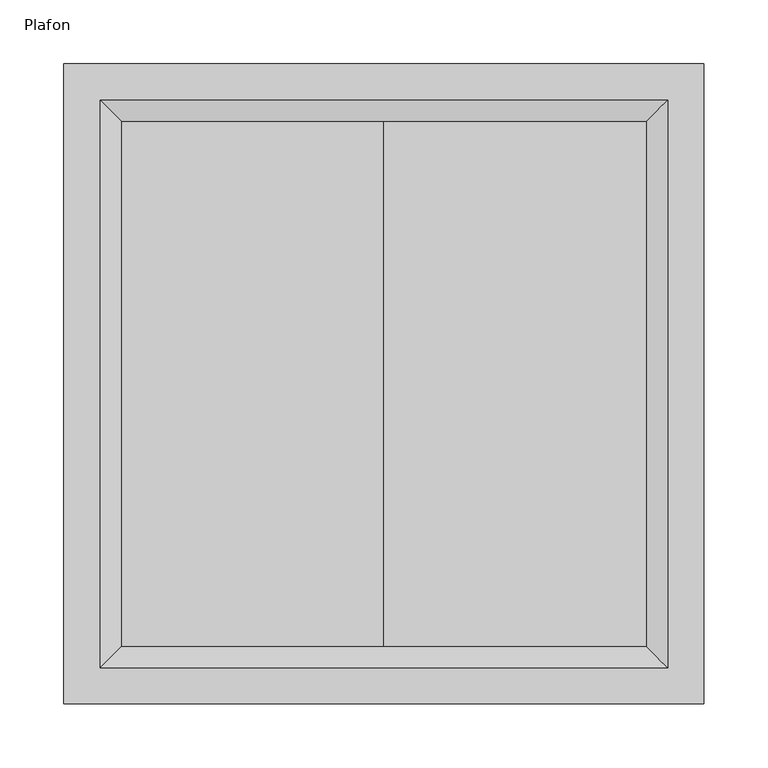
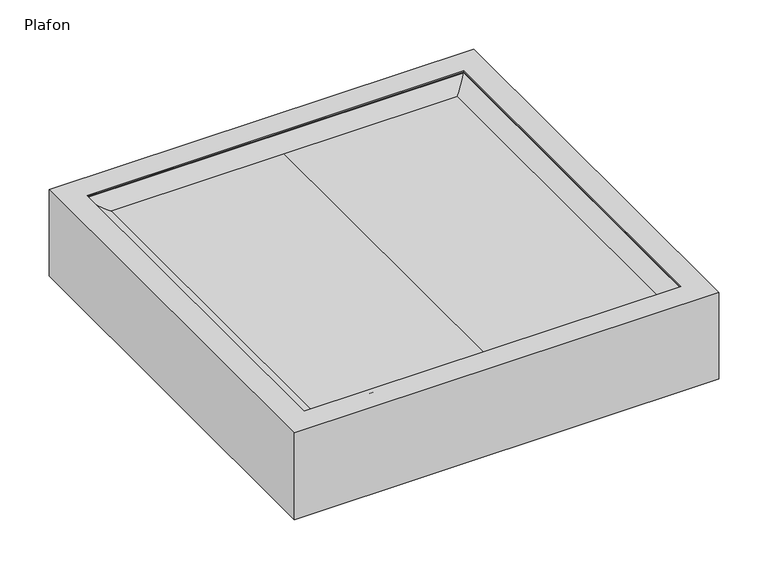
"""IFC4 building model written with IfcOpenShell, lengths in millimetres: light fixture geometry, Plafon : Lighting_Ceiling-Mounted_LumenWerx_Primo-Surface."""

import ifcopenshell
import ifcopenshell.guid

model = None  # the IFC model being written
_history = None  # IfcOwnerHistory: only IFC2X3 demands one
_inside = {}  # id of a spatial element -> (the spatial element, [elements in it])
_under = {}  # id of a project, library or spatial element -> (it, [spatial elements below it])
_declared = {}  # id of a project -> (the project, [libraries it declares])
_typed = {}  # id of a type object -> (the type object, [elements of that type])
_made_of = {}  # id of a material, layer set ... -> (it, [elements and type objects made of it])


def new_model(schema):
    """Start an empty IFC model of exactly this schema.

    Asked for "IFC4X3", IfcOpenShell would pick the latest addendum, in which some entities
    have other attributes; the version numbers below select the first issue.
    IFC2X3 requires an IfcOwnerHistory on every rooted entity: one is made here for all.
    """
    global model, _history
    if schema == "IFC4X3":
        model = ifcopenshell.file(schema_version=(4, 3, 0, 0))
    else:
        model = ifcopenshell.file(schema=schema)
    _inside.clear()
    _under.clear()
    _declared.clear()
    _typed.clear()
    _made_of.clear()
    _history = None
    if model.schema == "IFC2X3":
        org = make("IfcOrganization", Name="unknown")
        user = make(
            "IfcPersonAndOrganization",
            ThePerson=make("IfcPerson", FamilyName="unknown"),
            TheOrganization=org,
        )
        app = make(
            "IfcApplication",
            ApplicationDeveloper=org,
            Version="unknown",
            ApplicationFullName="unknown",
            ApplicationIdentifier="unknown",
        )
        _history = make(
            "IfcOwnerHistory",
            OwningUser=user,
            OwningApplication=app,
            ChangeAction="ADDED",
            CreationDate=0,
        )
    return model


def make(cls, **values):
    """One entity of the class cls with the attributes given. An attribute that is None is left unset."""
    return model.create_entity(
        cls, **{name: value for name, value in values.items() if value is not None}
    )


def rooted(cls, **values):
    """An entity with a GlobalId (a new one), such as an element, a storey or a relation."""
    return make(cls, GlobalId=ifcopenshell.guid.new(), OwnerHistory=_history, **values)


def si_unit(unit_type, name, prefix=None):
    """IfcSIUnit, for example si_unit("LENGTHUNIT", "METRE", prefix="MILLI")."""
    return make("IfcSIUnit", UnitType=unit_type, Prefix=prefix, Name=name)


def assignment(units):
    """IfcUnitAssignment: the units of a project."""
    return None if units is None else make("IfcUnitAssignment", Units=units)


def point(xyz):
    """IfcCartesianPoint."""
    return None if xyz is None else make("IfcCartesianPoint", Coordinates=xyz)


def direction(xyz):
    """IfcDirection."""
    return None if xyz is None else make("IfcDirection", DirectionRatios=xyz)


def frame(location, z_axis=None, x_axis=None):
    """IfcAxis2Placement3D, a coordinate frame: its origin and axes. An axis left out is left unset."""
    return make(
        "IfcAxis2Placement3D",
        Location=point(location),
        Axis=direction(z_axis),
        RefDirection=direction(x_axis),
    )


def origin():
    """The frame at (0, 0, 0) with its axes left unset."""
    return frame((0.0, 0.0, 0.0))


def place(relative_to, where):
    """IfcLocalPlacement: puts the frame where relative to a parent placement (None: the world)."""
    return make(
        "IfcLocalPlacement", PlacementRelTo=relative_to, RelativePlacement=where
    )


def context(
    kind, dimensions, precision=None, world=None, true_north=None, identifier=None
):
    """IfcGeometricRepresentationContext, for example the 3D "Model" context."""
    return make(
        "IfcGeometricRepresentationContext",
        ContextIdentifier=identifier,
        ContextType=kind,
        CoordinateSpaceDimension=dimensions,
        Precision=precision,
        WorldCoordinateSystem=world,
        TrueNorth=true_north,
    )


def project(units=None, contexts=None):
    """IfcProject with its units and contexts."""
    return rooted(
        "IfcProject",
        Name="project",
        RepresentationContexts=contexts,
        UnitsInContext=assignment(units),
    )


def spatial(cls, under=None, at=None, **own):
    """A site, building, storey or space (cls), placed at a placement, below another one or the project."""
    s = rooted(cls, ObjectPlacement=at, **own)
    if under is not None:
        _under.setdefault(under.id(), (under, []))[1].append(s)
    return s


def polyline(points):
    """IfcPolyline through the points."""
    return make("IfcPolyline", Points=[point(p) for p in points])


def ellipse_curve(where, semi_axis1, semi_axis2):
    """IfcEllipse in the frame where."""
    return make(
        "IfcEllipse", Position=where, SemiAxis1=semi_axis1, SemiAxis2=semi_axis2
    )


def outline(outer, holes=None, kind="AREA"):
    """IfcArbitraryClosedProfileDef: a profile drawn as a closed curve; with holes, ...WithVoids."""
    if holes is None:
        return make("IfcArbitraryClosedProfileDef", ProfileType=kind, OuterCurve=outer)
    return make(
        "IfcArbitraryProfileDefWithVoids",
        ProfileType=kind,
        OuterCurve=outer,
        InnerCurves=holes,
    )


def extrude(swept, where, along, depth):
    """IfcExtrudedAreaSolid: the profile swept, set in the frame where, extruded along a direction by depth."""
    return make(
        "IfcExtrudedAreaSolid",
        SweptArea=swept,
        Position=where,
        ExtrudedDirection=direction(along),
        Depth=depth,
    )


def faces_of(points, faces, orient=None, outer=None):
    """IfcFace entities. A face is a list of loops; a loop is a list of indices into points, from 0.

    orient and outer hold one flag for each loop. By default every Orientation is true, the
    first loop of a face is its IfcFaceOuterBound and the others are IfcFaceBound.
    """
    made = []
    for i, loops in enumerate(faces):
        bounds = []
        for j, loop in enumerate(loops):
            is_outer = j == 0 if outer is None else outer[i][j]
            bounds.append(
                make(
                    "IfcFaceOuterBound" if is_outer else "IfcFaceBound",
                    Bound=make("IfcPolyLoop", Polygon=[points[k] for k in loop]),
                    Orientation=True if orient is None else orient[i][j],
                )
            )
        made.append(make("IfcFace", Bounds=bounds))
    return made


def faceted_brep(points, faces, orient=None, outer=None, voids=None):
    """IfcFacetedBrep: a solid bounded by flat faces; with voids (closed shells), ...WithVoids."""
    shared = [point(p) for p in points]
    hull = make("IfcClosedShell", CfsFaces=faces_of(shared, faces, orient, outer))
    if voids is None:
        return make("IfcFacetedBrep", Outer=hull)
    return make(
        "IfcFacetedBrepWithVoids",
        Outer=hull,
        Voids=[
            make(cls, CfsFaces=faces_of(shared, fs, o, b)) for cls, fs, o, b in voids
        ],
    )


def shape(context_of_items, identifier, shape_type, items):
    """IfcShapeRepresentation: the items that make up one representation, for example the "Body"."""
    return make(
        "IfcShapeRepresentation",
        ContextOfItems=context_of_items,
        RepresentationIdentifier=identifier,
        RepresentationType=shape_type,
        Items=items,
    )


def source(mapping_origin, context_of_items, identifier, shape_type, items):
    """IfcRepresentationMap: a shape defined once, which mapped items show again and again."""
    return make(
        "IfcRepresentationMap",
        MappingOrigin=mapping_origin,
        MappedRepresentation=shape(context_of_items, identifier, shape_type, items),
    )


def transform(
    local_origin,
    x_axis=None,
    y_axis=None,
    z_axis=None,
    scale=None,
    scale2=None,
    scale3=None,
    uniform=True,
):
    """IfcCartesianTransformationOperator3D, or its non-uniform kind. x_axis, y_axis, z_axis: its Axis1, 2, 3."""
    if uniform:
        return make(
            "IfcCartesianTransformationOperator3D",
            Axis1=direction(x_axis),
            Axis2=direction(y_axis),
            LocalOrigin=point(local_origin),
            Scale=scale,
            Axis3=direction(z_axis),
        )
    return make(
        "IfcCartesianTransformationOperator3DnonUniform",
        Axis1=direction(x_axis),
        Axis2=direction(y_axis),
        LocalOrigin=point(local_origin),
        Scale=scale,
        Axis3=direction(z_axis),
        Scale2=scale2,
        Scale3=scale3,
    )


def mapped(mapping_source, mapping_target):
    """IfcMappedItem: shows the shape of a source again, moved by a transform."""
    return make(
        "IfcMappedItem", MappingSource=mapping_source, MappingTarget=mapping_target
    )


def made_of(thing, what):
    """Note that an element or type object is made of a material, layer set ...; save() writes the relation."""
    if what is not None:
        _made_of.setdefault(what.id(), (what, []))[1].append(thing)
    return thing


def element(
    cls,
    number,
    at=None,
    inside=None,
    cuts=None,
    type_object=None,
    material=None,
    context=None,
    identifier="Body",
    shape_type=None,
    held_by="IfcProductDefinitionShape",
    body=None,
    shapes=None,
    **own,
):
    """One element of the class cls, such as IfcWall. Its Tag is "e" and its number.

    at: its placement. inside: the storey or other place that contains it. cuts: it is an
    opening in that element (IfcRelVoidsElement). A single representation is given by context,
    identifier, shape_type and body (its items); several are given by shapes. held_by: the class
    of the entity that holds the representations. save() writes the other relations.
    """
    e = rooted(cls, Tag="e%d" % number, ObjectPlacement=at, **own)
    if body is not None:
        shapes = [shape(context, identifier, shape_type, body)]
    if shapes is not None:
        e.Representation = make(held_by, Representations=shapes)
    if inside is not None:
        _inside.setdefault(inside.id(), (inside, []))[1].append(e)
    if cuts is not None:
        rooted(
            "IfcRelVoidsElement", RelatingBuildingElement=cuts, RelatedOpeningElement=e
        )
    if type_object is not None:
        _typed.setdefault(type_object.id(), (type_object, []))[1].append(e)
    return made_of(e, material)


def aggregate(whole, parts):
    """IfcRelAggregates: a whole, such as a stair, and the parts it consists of."""
    return rooted("IfcRelAggregates", RelatingObject=whole, RelatedObjects=parts)


def save(model, path):
    """Write the relations noted so far, then the file.

    IfcRelAggregates (storeys below a building ...), IfcRelContainedInSpatialStructure (elements
    in a storey), IfcRelDefinesByType, IfcRelAssociatesMaterial and IfcRelDeclares: one each for
    every whole, place, type object, material and project.
    """
    for whole, parts in _under.values():
        aggregate(whole, parts)
    for where, things in _inside.values():
        rooted(
            "IfcRelContainedInSpatialStructure",
            RelatedElements=things,
            RelatingStructure=where,
        )
    for kind, things in _typed.values():
        rooted("IfcRelDefinesByType", RelatedObjects=things, RelatingType=kind)
    for what, things in _made_of.values():
        rooted("IfcRelAssociatesMaterial", RelatedObjects=things, RelatingMaterial=what)
    for by, libraries in _declared.values():
        rooted("IfcRelDeclares", RelatingContext=by, RelatedDefinitions=libraries)
    model.write(path)


def plane_surface(at):
    """IfcPlane: the flat surface through the origin of the frame at, square to its z axis."""
    return make("IfcPlane", Position=at)


def revolved_surface(curve, axis_point, axis_direction):
    """IfcSurfaceOfRevolution: the curve turned about the line through axis_point along axis_direction."""
    return make(
        "IfcSurfaceOfRevolution",
        SweptCurve=make("IfcArbitraryOpenProfileDef", ProfileType="CURVE", Curve=curve),
        AxisPosition=make("IfcAxis1Placement", Location=point(axis_point), Axis=direction(axis_direction)),
    )


def advanced_brep(points, edges, surfaces, faces):
    """IfcAdvancedBrep: a solid bounded by faces that lie on surfaces and meet in shared edges.

    An edge is (start, end): straight between two places in points (the first is 0);
    or (start, end, curve); or (start, end, curve, False) where it runs against its curve.
    A face is (place in surfaces, loops), or (place, loops, False) where it looks against
    its surface's normal. A loop lists edges by number (the first is 1), with a minus sign
    where the edge is run from its end to its start. The first loop is the outer one.
    """
    corners = [point(p) for p in points]
    vertices = [make("IfcVertexPoint", VertexGeometry=c) for c in corners]
    made = []
    for start, end, *more in edges:
        made.append(
            make(
                "IfcEdgeCurve",
                EdgeStart=vertices[start],
                EdgeEnd=vertices[end],
                EdgeGeometry=more[0] if more else make("IfcPolyline", Points=[corners[start], corners[end]]),
                SameSense=more[1] if len(more) > 1 else True,
            )
        )
    hull = []
    for where, loops, *sense in faces:
        bounds = []
        for j, loop in enumerate(loops):
            ring = [make("IfcOrientedEdge", EdgeElement=made[abs(k) - 1], Orientation=k > 0) for k in loop]
            bounds.append(
                make(
                    "IfcFaceOuterBound" if j == 0 else "IfcFaceBound",
                    Bound=make("IfcEdgeLoop", EdgeList=ring),
                    Orientation=True,
                )
            )
        hull.append(make("IfcAdvancedFace", Bounds=bounds, FaceSurface=surfaces[where], SameSense=sense[0] if sense else True))
    return make("IfcAdvancedBrep", Outer=make("IfcClosedShell", CfsFaces=hull))


def plafon_ee325480(model_context):
    return source(origin(), model_context, "Body", "SolidModel", [
        faceted_brep([(223.0069401, 223.1344284, 106.1040523), (-223.0010998, 223.1344284, 106.1040523), (-223.0010998, -223.1344284, 106.1040523), (223.0069401, -223.1344284, 106.1040523), (-221.552, 221.552, 106.1040523), (221.552, 221.552, 106.1040523), (221.552, -221.552, 106.1040523), (-221.552, -221.552, 106.1040523), (223.0069401, 223.1344284, 21.082), (223.0069401, -223.1344284, 21.082), (-223.0010998, -223.1344284, 21.082), (-223.0010998, 223.1344284, 21.082), (221.552, 221.552, 22.352), (-221.552, 221.552, 22.352), (-221.552, -221.552, 22.352), (221.552, -221.552, 22.352)], [[[0, 1, 2, 3], [4, 5, 6, 7]], [[8, 9, 10, 11]], [[1, 0, 8, 11]], [[2, 1, 11, 10]], [[3, 2, 10, 9]], [[0, 3, 9, 8]], [[12, 13, 14, 15]], [[13, 12, 5, 4]], [[14, 13, 4, 7]], [[15, 14, 7, 6]], [[12, 15, 6, 5]]]),
        extrude(outline(polyline([(88.8746, -221.552), (88.8746, 0.0), (88.8746, 221.552), (92.8116, 221.552), (92.8116, 0.0), (92.8116, -221.552), (88.8746, -221.552)])), frame((0.0, -221.552, 0.0), z_axis=(0.0, 1.0, 0.0), x_axis=(0.0, 0.0, 1.0)), (0.0, 0.0, 1.0), 443.104),
        advanced_brep(
        [(221.552, 221.552, 106.1040523), (200.8256, 200.8256, 92.7436523), (200.8256, -200.8256, 92.7436523), (221.552, -221.552, 106.1040523), (221.552, 221.552, 92.7436523), (221.552, -221.552, 92.7436523), (-200.8256, -200.8256, 92.7436523), (-221.552, -221.552, 106.1040523), (-221.552, -221.552, 92.7436523), (-200.8256, 200.8256, 92.7436523), (-221.552, 221.552, 106.1040523), (-221.552, 221.552, 92.7436523)],
        [
            (0, 1, ellipse_curve(frame((199.9507484, 199.9507484, 116.8577879), z_axis=(-0.7071067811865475, 0.7071067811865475, 0.0), x_axis=(-0.7071067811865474, -0.7071067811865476, 0.0)), 34.1249733, 24.13)),
            (1, 2),
            (2, 3, ellipse_curve(frame((199.9507484, -199.9507484, 116.8577879), z_axis=(-0.7071067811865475, -0.7071067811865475, 0.0), x_axis=(0.7071067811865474, -0.7071067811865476, 0.0)), 34.1249733, 24.13)),
            (3, 0),
            (4, 0),
            (3, 5),
            (5, 4),
            (2, 6),
            (6, 7, ellipse_curve(frame((-199.9507484, -199.9507484, 116.8577879), z_axis=(-0.7071067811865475, 0.7071067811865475, 0.0), x_axis=(-0.7071067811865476, -0.7071067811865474, 0.0)), 34.1249733, 24.13)),
            (7, 3),
            (7, 8),
            (8, 5),
            (6, 9),
            (9, 10, ellipse_curve(frame((-199.9507484, 199.9507484, 116.8577879), z_axis=(0.7071067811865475, 0.7071067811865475, 0.0), x_axis=(-0.7071067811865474, 0.7071067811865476, 0.0)), 34.1249733, 24.13)),
            (10, 7),
            (10, 11),
            (11, 8),
            (9, 1),
            (0, 10),
            (4, 11),
        ],
        [
            revolved_surface(polyline([(224.0807484, -224.08074842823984, 116.8577879), (224.0807484, 224.08074842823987, 116.8577879)]), (199.9507484, 221.552, 116.8577879), (0.0, -1.0, 0.0)),
            plane_surface(frame((221.552, 221.552, 106.1040523), z_axis=(1.0, 0.0, 0.0), x_axis=(0.0, -1.0, 0.0))),
            revolved_surface(polyline([(-224.08074842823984, -224.0807484, 116.8577879), (224.08074842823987, -224.0807484, 116.8577879)]), (221.552, -199.9507484, 116.8577879), (-1.0, 0.0, 0.0)),
            plane_surface(frame((221.552, -221.552, 106.1040523), z_axis=(0.0, -1.0, 0.0), x_axis=(-1.0, 0.0, 0.0))),
            revolved_surface(polyline([(-224.0807484, 224.08074842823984, 116.8577879), (-224.0807484, -224.08074842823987, 116.8577879)]), (-199.9507484, -221.552, 116.8577879), (0.0, 1.0, 0.0)),
            plane_surface(frame((-221.552, -221.552, 106.1040523), z_axis=(-1.0, 0.0, 0.0), x_axis=(0.0, 1.0, 0.0))),
            revolved_surface(polyline([(224.08074842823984, 224.0807484, 116.8577879), (-224.08074842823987, 224.0807484, 116.8577879)]), (-221.552, 199.9507484, 116.8577879), (1.0, 0.0, 0.0)),
            plane_surface(frame((-221.552, 221.552, 106.1040523), z_axis=(0.0, 1.0, 0.0), x_axis=(1.0, 0.0, 0.0))),
            plane_surface(frame((-221.552, 221.552, 92.7436523), z_axis=(0.0, 0.0, -1.0), x_axis=(1.0, 0.0, 0.0))),
        ],
        [
            (0, [[1, 2, 3, 4]]),
            (1, [[5, -4, 6, 7]]),
            (2, [[-3, 8, 9, 10]]),
            (3, [[-6, -10, 11, 12]]),
            (4, [[-9, 13, 14, 15]]),
            (5, [[-11, -15, 16, 17]]),
            (6, [[-14, 18, -1, 19]]),
            (7, [[-16, -19, -5, 20]]),
            (8, [[-12, -17, -20, -7], [-18, -13, -8, -2]]),
        ],
    ),
        faceted_brep([(250.0, 250.0, 0.0), (250.0, 250.0, 107.95), (250.0, -250.0, 107.95), (250.0, -250.0, 0.0), (248.222, 248.222, 106.1040523), (248.222, 248.222, 0.0), (248.222, -248.222, 0.0), (248.222, -248.222, 106.1040523), (221.6104284, 221.6104284, 107.95), (221.6104284, 221.6104284, 106.1040523), (221.6104284, -221.6104284, 106.1040523), (221.6104284, -221.6104284, 107.95), (-250.0, -250.0, 107.95), (-250.0, -250.0, 0.0), (-248.222, -248.222, 0.0), (-248.222, -248.222, 106.1040523), (-221.6104284, -221.6104284, 106.1040523), (-221.6104284, -221.6104284, 107.95), (-250.0, 250.0, 107.95), (-250.0, 250.0, 0.0), (-248.222, 248.222, 0.0), (-248.222, 248.222, 106.1040523), (-221.6104284, 221.6104284, 106.1040523), (-221.6104284, 221.6104284, 107.95)], [[[0, 1, 2, 3]], [[4, 5, 6, 7]], [[8, 9, 10, 11]], [[3, 2, 12, 13]], [[7, 6, 14, 15]], [[11, 10, 16, 17]], [[13, 12, 18, 19]], [[15, 14, 20, 21]], [[17, 16, 22, 23]], [[1, 18, 12, 2], [11, 17, 23, 8]], [[19, 18, 1, 0]], [[3, 13, 19, 0], [5, 20, 14, 6]], [[21, 20, 5, 4]], [[7, 15, 21, 4], [9, 22, 16, 10]], [[23, 22, 9, 8]]]),
    ])


if __name__ == "__main__":
    model = new_model("IFC4")
    model_context = context("Model", 3, world=origin())
    ifc_project = project(units=[si_unit("LENGTHUNIT", "METRE", prefix="MILLI")], contexts=[model_context])
    site = spatial("IfcSite", under=ifc_project)
    building = spatial("IfcBuilding", under=site)
    placement = place(None, origin())
    plafon_shape = plafon_ee325480(model_context)
    element("IfcLightFixture", 1, ObjectType="Plafon : Lighting_Ceiling-Mounted_LumenWerx_Primo-Surface", at=placement, inside=building, context=model_context, shape_type="MappedRepresentation", body=[
        mapped(plafon_shape, transform((0.0, 0.0, 0.0), x_axis=(1.0, 0.0, 0.0), y_axis=(0.0, 1.0, 0.0), z_axis=(0.0, 0.0, 1.0))),
    ])
    save(model, "model.ifc")
